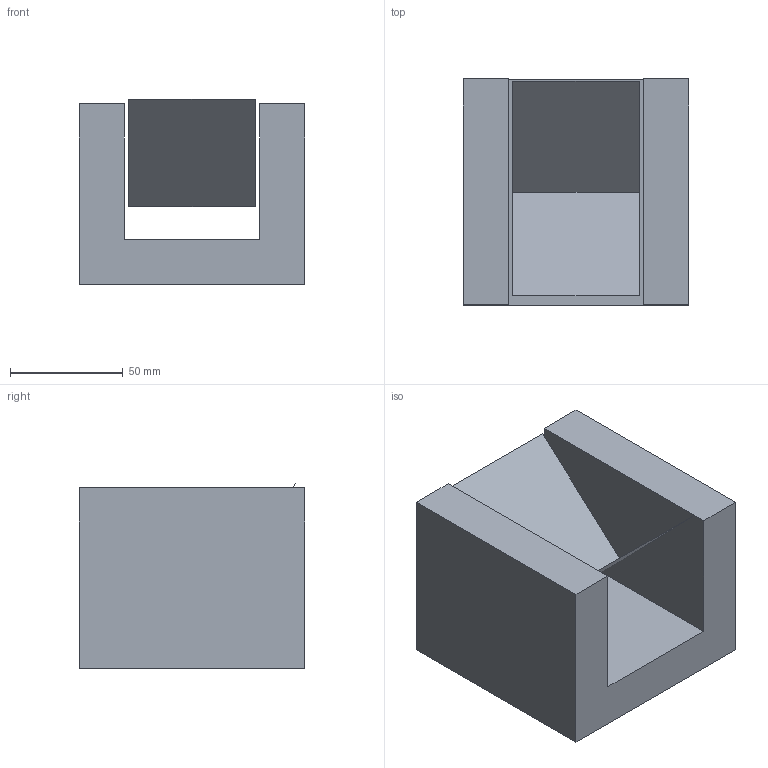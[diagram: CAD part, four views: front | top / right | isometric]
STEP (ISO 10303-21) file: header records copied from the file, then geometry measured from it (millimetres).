
FILE_DESCRIPTION (( 'STEP AP203' ), '1' );
FILE_NAME ('APPEDRO10.STEP', '2025-06-20T07:56:18', ( '' ), ( '' ), 'SwSTEP 2.0', 'SolidWorks 2024', '' );
FILE_SCHEMA (( 'CONFIG_CONTROL_DESIGN' ));
Length unit declared in the file: millimetre
Products named in the file (1): APPEDRO10
Bounding box: 100 x 100 x 81.97 mm (x, y, z)
Surface area: 64198.6 mm2 (no closed solid volume)
Topology: 0 solids, 2 shells, 12 faces, 31 edges, 22 vertices
Faces by surface type: plane 12
Entity records: 437 total; most frequent: CARTESIAN_POINT 66, DIRECTION 57, ORIENTED_EDGE 56, VECTOR 31, EDGE_CURVE 31, LINE 31, VERTEX_POINT 22, AXIS2_PLACEMENT_3D 13
